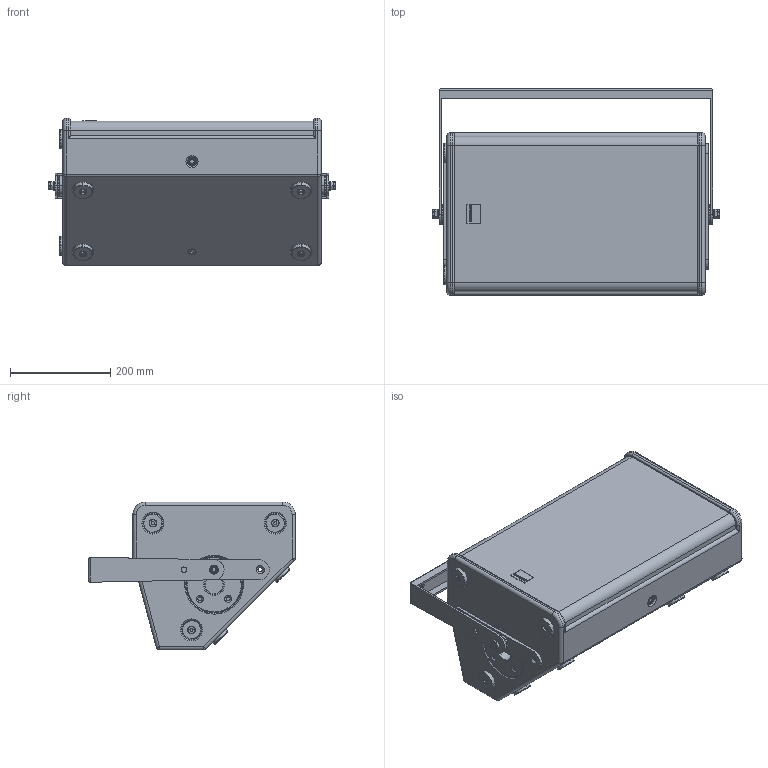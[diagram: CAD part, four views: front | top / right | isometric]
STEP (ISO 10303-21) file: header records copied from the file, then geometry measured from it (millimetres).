
FILE_DESCRIPTION (( 'STEP AP203' ), '1' );
FILE_NAME ('Seeburg_TSM10_Bracket_hor.STEP', '2012-10-17T12:14:09', ( 'Fabian' ), ( '' ), 'SwSTEP 2.0', 'SolidWorks 2009', '' );
FILE_SCHEMA (( 'CONFIG_CONTROL_DESIGN' ));
Length unit declared in the file: millimetre
Products named in the file (29): Imported61; Imported60; Imported66; Imported67; Imported73; Imported72; Imported74; Imported79; Imported80; Imported81; Imported86; Seeburg_TSM10_Bracket_hor; TSM10_Bracket-hor; Imported62; Imported63; Imported64; Imported65; Imported68; Imported69; Imported70; Imported71; Imported75; Imported76; Imported77; Imported78; Imported82; Imported83; Imported84; Imported85
Assembly tree (28 placements, depth 3):
  Seeburg_TSM10_Bracket_hor
    TSM10_Bracket-hor
      Imported60
      Imported86
      Imported79
      Imported82
      Imported61
      Imported68
      Imported77
      Imported74
      Imported64
      Imported78
      Imported63
      Imported69
      Imported81
      Imported67
      Imported65
      Imported71
      Imported83
      Imported84
      Imported70
      Imported75
      Imported76
      Imported80
      Imported73
      Imported66
      Imported72
      Imported62
      Imported85
Bounding box: 572.46 x 412 x 295 mm (x, y, z)
Volume: 11892250.1 mm3; surface area: 1658905.3 mm2
Topology: 35 solids, 35 shells, 958 faces, 2285 edges, 1425 vertices
Faces by surface type: cylinder 405, plane 280, torus 120, cone 106, sphere 45, bspline 2
Entity records: 34496 total; most frequent: CARTESIAN_POINT 8628, DIRECTION 5150, ORIENTED_EDGE 4526, EDGE_CURVE 2263, AXIS2_PLACEMENT_3D 2076, VERTEX_POINT 1413, EDGE_LOOP 1114, CIRCLE 1088
